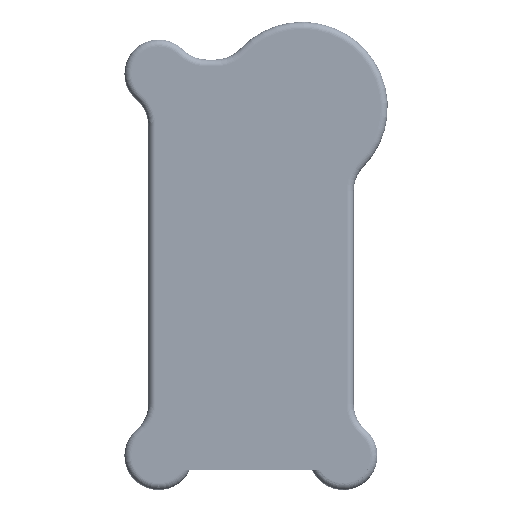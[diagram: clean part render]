
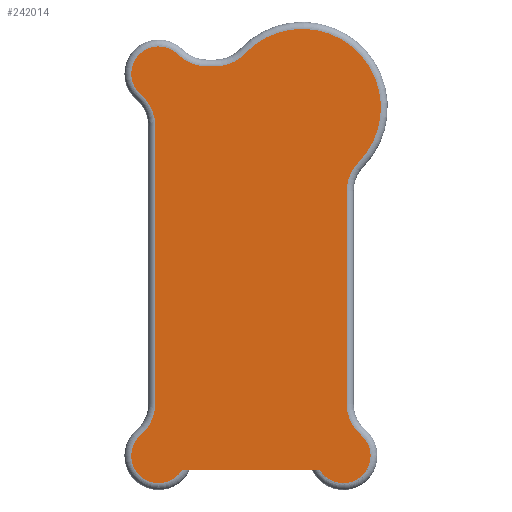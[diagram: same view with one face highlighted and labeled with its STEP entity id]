
A CAD part, front view. The second image highlights one B-rep face of the part: STEP entity #242014.
In plain terms, the highlighted planar face has unit normal (0, -1, 0) as drawn and (0, 0, 1) by its records, which use the part's own axes.
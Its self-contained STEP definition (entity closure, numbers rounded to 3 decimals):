
#20848=FACE_OUTER_BOUND('',#34601,.T.);
#34601=EDGE_LOOP('',(#177832,#177833,#177834,#177835,#177836,#177837,#177838,
#177839,#177840,#177841,#177842,#177843,#177844,#177845));
#45170=CIRCLE('',#256234,8.);
#45173=CIRCLE('',#256238,12.);
#45177=CIRCLE('',#256244,12.);
#45180=CIRCLE('',#256248,8.);
#45183=CIRCLE('',#256252,12.);
#45187=CIRCLE('',#256258,12.);
#45190=CIRCLE('',#256262,23.);
#45193=CIRCLE('',#256266,12.);
#45197=CIRCLE('',#256272,12.);
#45199=CIRCLE('',#256275,8.);
#58367=LINE('',#365752,#84070);
#58369=LINE('',#365776,#84072);
#58371=LINE('',#365800,#84074);
#58372=LINE('',#365823,#84075);
#84070=VECTOR('',#286391,10.);
#84072=VECTOR('',#286421,10.);
#84074=VECTOR('',#286451,10.);
#84075=VECTOR('',#286468,10.);
#107888=VERTEX_POINT('',#365724);
#107891=VERTEX_POINT('',#365729);
#107892=VERTEX_POINT('',#365742);
#107894=VERTEX_POINT('',#365748);
#107896=VERTEX_POINT('',#365754);
#107898=VERTEX_POINT('',#365760);
#107900=VERTEX_POINT('',#365766);
#107902=VERTEX_POINT('',#365772);
#107904=VERTEX_POINT('',#365778);
#107906=VERTEX_POINT('',#365784);
#107908=VERTEX_POINT('',#365790);
#107910=VERTEX_POINT('',#365796);
#107912=VERTEX_POINT('',#365802);
#107914=VERTEX_POINT('',#365808);
#133538=EDGE_CURVE('',#107891,#107888,#45170,.T.);
#133541=EDGE_CURVE('',#107888,#107892,#45173,.T.);
#133544=EDGE_CURVE('',#107892,#107894,#58367,.T.);
#133547=EDGE_CURVE('',#107894,#107896,#45177,.T.);
#133550=EDGE_CURVE('',#107896,#107898,#45180,.T.);
#133553=EDGE_CURVE('',#107898,#107900,#45183,.T.);
#133556=EDGE_CURVE('',#107900,#107902,#58369,.T.);
#133559=EDGE_CURVE('',#107902,#107904,#45187,.T.);
#133562=EDGE_CURVE('',#107904,#107906,#45190,.T.);
#133565=EDGE_CURVE('',#107906,#107908,#45193,.T.);
#133568=EDGE_CURVE('',#107908,#107910,#58371,.T.);
#133571=EDGE_CURVE('',#107910,#107912,#45197,.T.);
#133574=EDGE_CURVE('',#107912,#107914,#45199,.T.);
#133575=EDGE_CURVE('',#107891,#107914,#58372,.T.);
#177832=ORIENTED_EDGE('',*,*,#133575,.T.);
#177833=ORIENTED_EDGE('',*,*,#133574,.F.);
#177834=ORIENTED_EDGE('',*,*,#133571,.F.);
#177835=ORIENTED_EDGE('',*,*,#133568,.F.);
#177836=ORIENTED_EDGE('',*,*,#133565,.F.);
#177837=ORIENTED_EDGE('',*,*,#133562,.F.);
#177838=ORIENTED_EDGE('',*,*,#133559,.F.);
#177839=ORIENTED_EDGE('',*,*,#133556,.F.);
#177840=ORIENTED_EDGE('',*,*,#133553,.F.);
#177841=ORIENTED_EDGE('',*,*,#133550,.F.);
#177842=ORIENTED_EDGE('',*,*,#133547,.F.);
#177843=ORIENTED_EDGE('',*,*,#133544,.F.);
#177844=ORIENTED_EDGE('',*,*,#133541,.F.);
#177845=ORIENTED_EDGE('',*,*,#133538,.F.);
#233286=PLANE('',#256276);
#242014=ADVANCED_FACE('',(#20848),#233286,.T.);
#256234=AXIS2_PLACEMENT_3D('',#365740,#286376,#286377);
#256238=AXIS2_PLACEMENT_3D('',#365746,#286384,#286385);
#256244=AXIS2_PLACEMENT_3D('',#365758,#286398,#286399);
#256248=AXIS2_PLACEMENT_3D('',#365764,#286406,#286407);
#256252=AXIS2_PLACEMENT_3D('',#365770,#286414,#286415);
#256258=AXIS2_PLACEMENT_3D('',#365782,#286428,#286429);
#256262=AXIS2_PLACEMENT_3D('',#365788,#286436,#286437);
#256266=AXIS2_PLACEMENT_3D('',#365794,#286444,#286445);
#256272=AXIS2_PLACEMENT_3D('',#365806,#286458,#286459);
#256275=AXIS2_PLACEMENT_3D('',#365821,#286464,#286465);
#256276=AXIS2_PLACEMENT_3D('',#365822,#286466,#286467);
#286376=DIRECTION('center_axis',(0.,0.,-1.));
#286377=DIRECTION('ref_axis',(-0.601,-0.799,0.));
#286384=DIRECTION('center_axis',(0.,0.,1.));
#286385=DIRECTION('ref_axis',(0.908,-0.418,0.));
#286391=DIRECTION('',(0.,1.,0.));
#286398=DIRECTION('center_axis',(0.,0.,1.));
#286399=DIRECTION('ref_axis',(0.908,0.418,0.));
#286406=DIRECTION('center_axis',(0.,0.,-1.));
#286407=DIRECTION('ref_axis',(-0.734,0.679,0.));
#286414=DIRECTION('center_axis',(0.,0.,1.));
#286415=DIRECTION('ref_axis',(-0.383,-0.924,0.));
#286421=DIRECTION('',(1.,0.,0.));
#286428=DIRECTION('center_axis',(0.,0.,1.));
#286429=DIRECTION('ref_axis',(0.396,-0.918,0.));
#286436=DIRECTION('center_axis',(0.,0.,-1.));
#286437=DIRECTION('ref_axis',(0.693,0.721,0.));
#286444=DIRECTION('center_axis',(0.,0.,1.));
#286445=DIRECTION('ref_axis',(-0.926,0.378,0.));
#286451=DIRECTION('',(0.,-1.,0.));
#286458=DIRECTION('center_axis',(0.,0.,1.));
#286459=DIRECTION('ref_axis',(-0.908,-0.418,0.));
#286464=DIRECTION('center_axis',(0.,0.,-1.));
#286465=DIRECTION('ref_axis',(0.601,-0.799,0.));
#286466=DIRECTION('center_axis',(0.,0.,1.));
#286467=DIRECTION('ref_axis',(1.,0.,0.));
#286468=DIRECTION('',(1.,0.,0.));
#365724=CARTESIAN_POINT('',(-14.7,-97.283,2.));
#365729=CARTESIAN_POINT('',(-2.653,-107.5,2.));
#365740=CARTESIAN_POINT('Origin',(-9.5,-103.362,2.));
#365742=CARTESIAN_POINT('',(-10.5,-88.164,2.));
#365746=CARTESIAN_POINT('Origin',(-22.5,-88.164,2.));
#365748=CARTESIAN_POINT('',(-10.5,-6.836,2.));
#365752=CARTESIAN_POINT('',(-10.5,-17.5,2.));
#365754=CARTESIAN_POINT('',(-14.7,2.283,2.));
#365758=CARTESIAN_POINT('Origin',(-22.5,-6.836,2.));
#365760=CARTESIAN_POINT('',(-3.841,14.017,2.));
#365764=CARTESIAN_POINT('Origin',(-9.5,8.362,2.));
#365766=CARTESIAN_POINT('',(4.647,10.5,2.));
#365770=CARTESIAN_POINT('Origin',(4.647,22.5,2.));
#365772=CARTESIAN_POINT('',(7.025,10.5,2.));
#365776=CARTESIAN_POINT('',(32.5,10.5,2.));
#365778=CARTESIAN_POINT('',(15.759,14.271,2.));
#365782=CARTESIAN_POINT('Origin',(7.025,22.5,2.));
#365784=CARTESIAN_POINT('',(48.929,-17.597,2.));
#365788=CARTESIAN_POINT('Origin',(32.5,-1.5,2.));
#365790=CARTESIAN_POINT('',(45.5,-25.995,2.));
#365794=CARTESIAN_POINT('Origin',(57.5,-25.995,2.));
#365796=CARTESIAN_POINT('',(45.5,-88.164,2.));
#365800=CARTESIAN_POINT('',(45.5,-77.5,2.));
#365802=CARTESIAN_POINT('',(49.7,-97.283,2.));
#365806=CARTESIAN_POINT('Origin',(57.5,-88.164,2.));
#365808=CARTESIAN_POINT('',(37.653,-107.5,2.));
#365821=CARTESIAN_POINT('Origin',(44.5,-103.362,2.));
#365822=CARTESIAN_POINT('Origin',(17.5,-47.5,2.));
#365823=CARTESIAN_POINT('',(-12.5,-107.5,2.));
